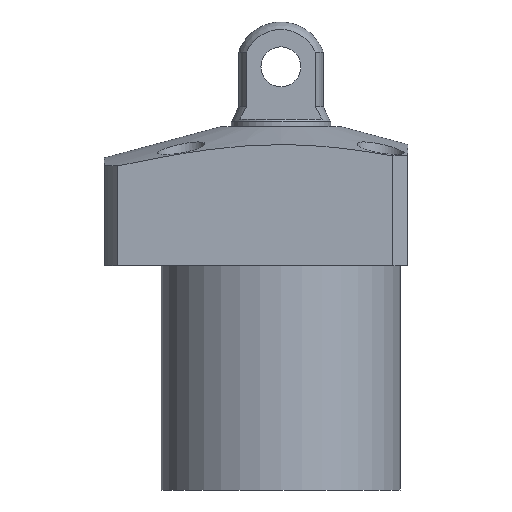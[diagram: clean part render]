
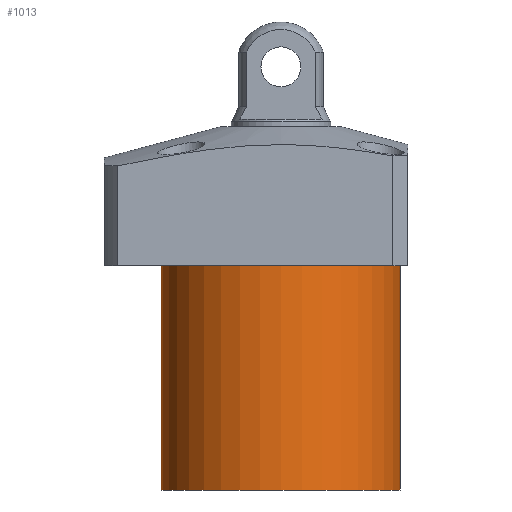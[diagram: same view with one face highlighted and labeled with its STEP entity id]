
A CAD part, front view. The second image highlights one B-rep face of the part: STEP entity #1013.
In plain terms, the highlighted cylindrical face has radius 24 mm (diameter 48 mm), a partial arc.
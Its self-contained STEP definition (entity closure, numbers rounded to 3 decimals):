
#228 = CIRCLE ( 'NONE', #765, 24. ) ;
#234 = EDGE_CURVE ( 'NONE', #1096, #535, #963, .T. ) ;
#286 = CARTESIAN_POINT ( 'NONE',  ( 0., 0., -59. ) ) ;
#409 = CIRCLE ( 'NONE', #2154, 24. ) ;
#535 = VERTEX_POINT ( 'NONE', #1602 ) ;
#560 = DIRECTION ( 'NONE',  ( 1., 0., 0. ) ) ;
#605 = ORIENTED_EDGE ( 'NONE', *, *, #1479, .F. ) ;
#765 = AXIS2_PLACEMENT_3D ( 'NONE', #1231, #1634, #560 ) ;
#798 = CARTESIAN_POINT ( 'NONE',  ( -24., 0., -14. ) ) ;
#812 = CARTESIAN_POINT ( 'NONE',  ( -24., 0., -59. ) ) ;
#839 = CARTESIAN_POINT ( 'NONE',  ( 24., 0., -59. ) ) ;
#864 = EDGE_CURVE ( 'NONE', #535, #2074, #228, .T. ) ;
#923 = AXIS2_PLACEMENT_3D ( 'NONE', #2225, #1331, #1342 ) ;
#963 = LINE ( 'NONE', #2237, #1682 ) ;
#1013 = ADVANCED_FACE ( 'NONE', ( #2111 ), #1458, .T. ) ;
#1067 = VERTEX_POINT ( 'NONE', #812 ) ;
#1096 = VERTEX_POINT ( 'NONE', #839 ) ;
#1127 = EDGE_LOOP ( 'NONE', ( #605, #2299, #2059, #1416 ) ) ;
#1231 = CARTESIAN_POINT ( 'NONE',  ( 0., 0., -14. ) ) ;
#1331 = DIRECTION ( 'NONE',  ( 0., 0., 1. ) ) ;
#1332 = LINE ( 'NONE', #2023, #1545 ) ;
#1342 = DIRECTION ( 'NONE',  ( 1., 0., 0. ) ) ;
#1416 = ORIENTED_EDGE ( 'NONE', *, *, #864, .T. ) ;
#1458 = CYLINDRICAL_SURFACE ( 'NONE', #923, 24. ) ;
#1479 = EDGE_CURVE ( 'NONE', #1067, #2074, #1332, .T. ) ;
#1530 = DIRECTION ( 'NONE',  ( -1., 0., 0. ) ) ;
#1532 = DIRECTION ( 'NONE',  ( 0., 0., 1. ) ) ;
#1545 = VECTOR ( 'NONE', #1805, 1000. ) ;
#1602 = CARTESIAN_POINT ( 'NONE',  ( 24., 0., -14. ) ) ;
#1634 = DIRECTION ( 'NONE',  ( 0., 0., -1. ) ) ;
#1682 = VECTOR ( 'NONE', #1532, 1000. ) ;
#1805 = DIRECTION ( 'NONE',  ( 0., 0., 1. ) ) ;
#1840 = EDGE_CURVE ( 'NONE', #1096, #1067, #409, .T. ) ;
#2023 = CARTESIAN_POINT ( 'NONE',  ( -24., 0., -59. ) ) ;
#2059 = ORIENTED_EDGE ( 'NONE', *, *, #234, .T. ) ;
#2065 = DIRECTION ( 'NONE',  ( 0., 0., -1. ) ) ;
#2074 = VERTEX_POINT ( 'NONE', #798 ) ;
#2111 = FACE_OUTER_BOUND ( 'NONE', #1127, .T. ) ;
#2154 = AXIS2_PLACEMENT_3D ( 'NONE', #286, #2065, #1530 ) ;
#2225 = CARTESIAN_POINT ( 'NONE',  ( 0., 0., -59. ) ) ;
#2237 = CARTESIAN_POINT ( 'NONE',  ( 24., 0., -59. ) ) ;
#2299 = ORIENTED_EDGE ( 'NONE', *, *, #1840, .F. ) ;
